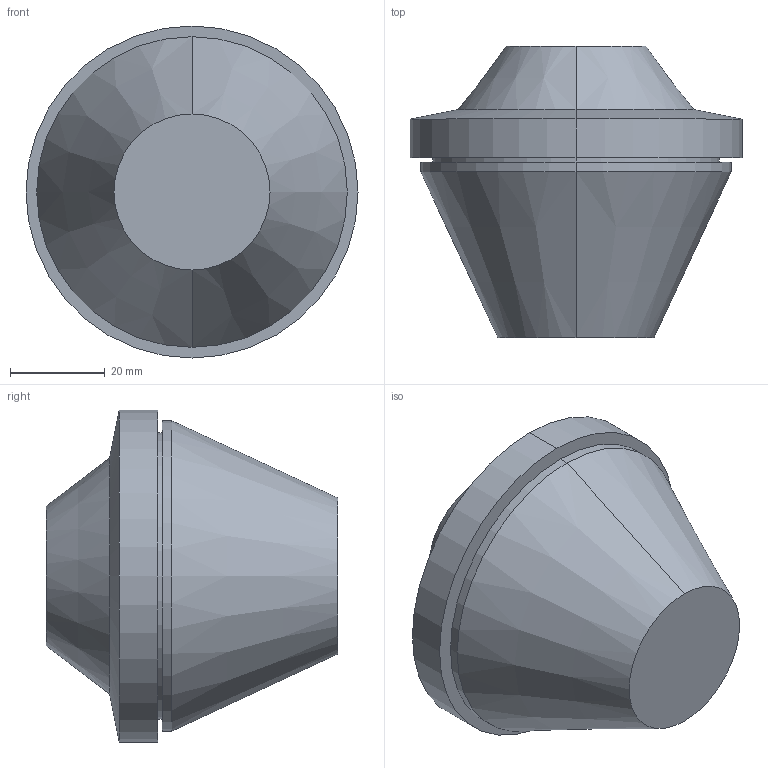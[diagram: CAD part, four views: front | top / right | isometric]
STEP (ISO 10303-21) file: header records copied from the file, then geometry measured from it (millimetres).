
FILE_DESCRIPTION (( 'STEP AP203' ), '1' );
FILE_NAME ('100185.STEP', '2012-10-25T07:09:37', ( 'Joni' ), ( 'Hewlett-Packard Company' ), 'SwSTEP 2.0', 'SolidWorks 2012', '' );
FILE_SCHEMA (( 'CONFIG_CONTROL_DESIGN' ));
Length unit declared in the file: millimetre
Products named in the file (1): 100185
Bounding box: 70 x 61.5 x 70 mm (x, y, z)
Volume: 132407.1 mm3; surface area: 15384.1 mm2
Topology: 1 solids, 1 shells, 16 faces, 30 edges, 18 vertices
Faces by surface type: cone 6, cylinder 6, plane 4
Entity records: 481 total; most frequent: DIRECTION 82, CARTESIAN_POINT 65, ORIENTED_EDGE 60, AXIS2_PLACEMENT_3D 35, EDGE_CURVE 30, CIRCLE 18, VERTEX_POINT 18, EDGE_LOOP 18
